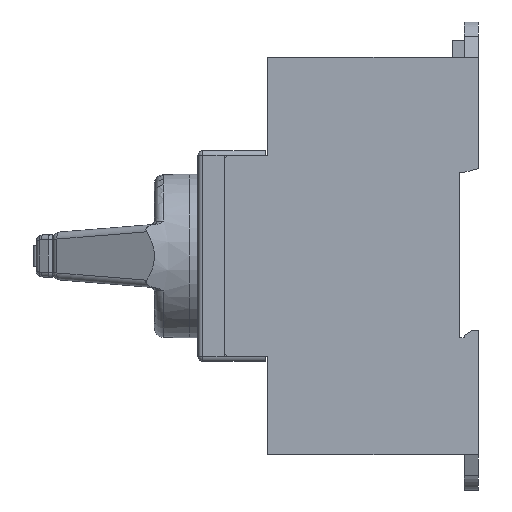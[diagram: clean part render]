
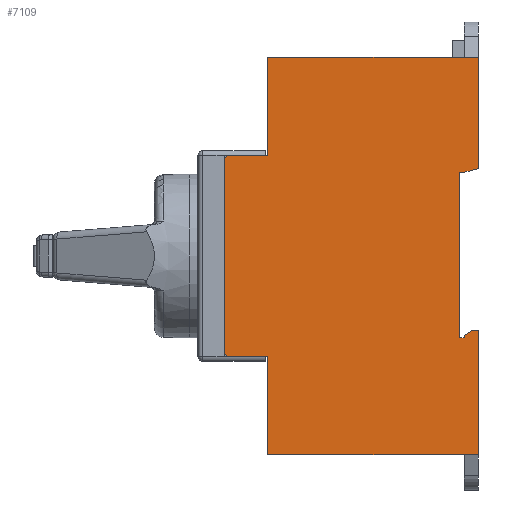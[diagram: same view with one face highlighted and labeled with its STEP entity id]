
A CAD part, left-side view. The second image highlights one B-rep face of the part: STEP entity #7109.
In plain terms, the highlighted planar face has unit normal (-1, 0, 0).
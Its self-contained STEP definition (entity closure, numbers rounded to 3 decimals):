
#271 = EDGE_CURVE ( 'NONE', #6432, #445, #11219, .T. ) ;
#331 = DIRECTION ( 'NONE',  ( 0., -1., 0. ) ) ;
#359 = CARTESIAN_POINT ( 'NONE',  ( -39., 54.2, -21.5 ) ) ;
#401 = CARTESIAN_POINT ( 'NONE',  ( -39., 45., -21.5 ) ) ;
#445 = VERTEX_POINT ( 'NONE', #4787 ) ;
#505 = VERTEX_POINT ( 'NONE', #4266 ) ;
#633 = CARTESIAN_POINT ( 'NONE',  ( -39., 1.5, -16. ) ) ;
#720 = LINE ( 'NONE', #8243, #1911 ) ;
#781 = EDGE_CURVE ( 'NONE', #3661, #3012, #9451, .T. ) ;
#891 = ORIENTED_EDGE ( 'NONE', *, *, #4813, .F. ) ;
#982 = ORIENTED_EDGE ( 'NONE', *, *, #11224, .T. ) ;
#1127 = ORIENTED_EDGE ( 'NONE', *, *, #2856, .T. ) ;
#1135 = ORIENTED_EDGE ( 'NONE', *, *, #271, .T. ) ;
#1411 = LINE ( 'NONE', #4727, #1437 ) ;
#1417 = ORIENTED_EDGE ( 'NONE', *, *, #11159, .T. ) ;
#1437 = VECTOR ( 'NONE', #4858, 1000. ) ;
#1460 = AXIS2_PLACEMENT_3D ( 'NONE', #7055, #7041, #7024 ) ;
#1651 = CARTESIAN_POINT ( 'NONE',  ( -39., 3., -17. ) ) ;
#1696 = LINE ( 'NONE', #9476, #1715 ) ;
#1714 = VERTEX_POINT ( 'NONE', #11080 ) ;
#1715 = VECTOR ( 'NONE', #9439, 1000. ) ;
#1879 = EDGE_CURVE ( 'NONE', #9569, #10365, #1696, .T. ) ;
#1911 = VECTOR ( 'NONE', #8288, 1000. ) ;
#2161 = VERTEX_POINT ( 'NONE', #7005 ) ;
#2172 = EDGE_LOOP ( 'NONE', ( #4340, #1135, #3771, #891, #4656, #10840, #7384, #1127, #9177, #2670, #1417, #982, #8546, #8493, #10551, #8284 ) ) ;
#2271 = DIRECTION ( 'NONE',  ( 0., 0., 1. ) ) ;
#2294 = EDGE_CURVE ( 'NONE', #3012, #6432, #2700, .T. ) ;
#2460 = LINE ( 'NONE', #7784, #5811 ) ;
#2504 = FACE_OUTER_BOUND ( 'NONE', #2172, .T. ) ;
#2617 = LINE ( 'NONE', #3783, #4447 ) ;
#2624 = DIRECTION ( 'NONE',  ( 0., 0., 1. ) ) ;
#2651 = CARTESIAN_POINT ( 'NONE',  ( -39., 4., 42.5 ) ) ;
#2670 = ORIENTED_EDGE ( 'NONE', *, *, #5961, .T. ) ;
#2698 = VECTOR ( 'NONE', #5645, 1000. ) ;
#2700 = LINE ( 'NONE', #5658, #2698 ) ;
#2856 = EDGE_CURVE ( 'NONE', #10749, #10365, #4652, .T. ) ;
#2995 = CARTESIAN_POINT ( 'NONE',  ( -39., 54.2, 21.5 ) ) ;
#3012 = VERTEX_POINT ( 'NONE', #8668 ) ;
#3133 = DIRECTION ( 'NONE',  ( 0., -1., 0. ) ) ;
#3176 = CARTESIAN_POINT ( 'NONE',  ( -39., 45., -42.5 ) ) ;
#3289 = VERTEX_POINT ( 'NONE', #1651 ) ;
#3661 = VERTEX_POINT ( 'NONE', #7458 ) ;
#3771 = ORIENTED_EDGE ( 'NONE', *, *, #11044, .T. ) ;
#3783 = CARTESIAN_POINT ( 'NONE',  ( -39., 54.2, 21.5 ) ) ;
#3803 = CARTESIAN_POINT ( 'NONE',  ( -39., 45., -42.5 ) ) ;
#3881 = EDGE_CURVE ( 'NONE', #7117, #505, #1411, .T. ) ;
#4266 = CARTESIAN_POINT ( 'NONE',  ( -39., 45., 42.5 ) ) ;
#4340 = ORIENTED_EDGE ( 'NONE', *, *, #2294, .T. ) ;
#4447 = VECTOR ( 'NONE', #3133, 1000. ) ;
#4469 = CARTESIAN_POINT ( 'NONE',  ( -39., 45., 42.5 ) ) ;
#4640 = VECTOR ( 'NONE', #331, 1000. ) ;
#4652 = LINE ( 'NONE', #359, #4640 ) ;
#4656 = ORIENTED_EDGE ( 'NONE', *, *, #3881, .F. ) ;
#4701 = CARTESIAN_POINT ( 'NONE',  ( -39., 0., -42.5 ) ) ;
#4727 = CARTESIAN_POINT ( 'NONE',  ( -39., 45., 42.5 ) ) ;
#4787 = CARTESIAN_POINT ( 'NONE',  ( -39., 0., 18.7 ) ) ;
#4813 = EDGE_CURVE ( 'NONE', #505, #7441, #6163, .T. ) ;
#4858 = DIRECTION ( 'NONE',  ( 0., 0., 1. ) ) ;
#4903 = VERTEX_POINT ( 'NONE', #633 ) ;
#5645 = DIRECTION ( 'NONE',  ( 0., -1., 0. ) ) ;
#5658 = CARTESIAN_POINT ( 'NONE',  ( -39., 45., 17.8 ) ) ;
#5751 = CARTESIAN_POINT ( 'NONE',  ( -39., 35.843, 8.925 ) ) ;
#5758 = DIRECTION ( 'NONE',  ( 0., 0., 1. ) ) ;
#5811 = VECTOR ( 'NONE', #7670, 1000. ) ;
#5846 = DIRECTION ( 'NONE',  ( 0., -0.965, 0.263 ) ) ;
#5961 = EDGE_CURVE ( 'NONE', #9569, #10841, #7096, .T. ) ;
#6163 = LINE ( 'NONE', #4469, #6202 ) ;
#6202 = VECTOR ( 'NONE', #6867, 1000. ) ;
#6432 = VERTEX_POINT ( 'NONE', #7363 ) ;
#6867 = DIRECTION ( 'NONE',  ( 0., -1., 0. ) ) ;
#6996 = CARTESIAN_POINT ( 'NONE',  ( -39., 54.2, -21.5 ) ) ;
#7005 = CARTESIAN_POINT ( 'NONE',  ( -39., 54.2, 21.5 ) ) ;
#7024 = DIRECTION ( 'NONE',  ( 0., 0., -1. ) ) ;
#7041 = DIRECTION ( 'NONE',  ( 1., 0., 0. ) ) ;
#7055 = CARTESIAN_POINT ( 'NONE',  ( -39., 45., 42.5 ) ) ;
#7093 = CARTESIAN_POINT ( 'NONE',  ( -39., 45., 21.5 ) ) ;
#7096 = LINE ( 'NONE', #3176, #11194 ) ;
#7109 = ADVANCED_FACE ( 'NONE', ( #2504 ), #7228, .F. ) ;
#7117 = VERTEX_POINT ( 'NONE', #7093 ) ;
#7228 = PLANE ( 'NONE',  #1460 ) ;
#7363 = CARTESIAN_POINT ( 'NONE',  ( -39., 3.3, 17.8 ) ) ;
#7384 = ORIENTED_EDGE ( 'NONE', *, *, #10899, .F. ) ;
#7441 = VERTEX_POINT ( 'NONE', #10598 ) ;
#7458 = CARTESIAN_POINT ( 'NONE',  ( -39., 4., -17.5 ) ) ;
#7665 = CARTESIAN_POINT ( 'NONE',  ( -39., 0., 42.5 ) ) ;
#7670 = DIRECTION ( 'NONE',  ( 0., 0.832, -0.555 ) ) ;
#7784 = CARTESIAN_POINT ( 'NONE',  ( -39., 4.615, -18.077 ) ) ;
#8164 = VECTOR ( 'NONE', #5846, 1000. ) ;
#8243 = CARTESIAN_POINT ( 'NONE',  ( -39., 3., 42.5 ) ) ;
#8284 = ORIENTED_EDGE ( 'NONE', *, *, #781, .T. ) ;
#8288 = DIRECTION ( 'NONE',  ( 0., 0., -1. ) ) ;
#8493 = ORIENTED_EDGE ( 'NONE', *, *, #9373, .T. ) ;
#8524 = LINE ( 'NONE', #2995, #8615 ) ;
#8546 = ORIENTED_EDGE ( 'NONE', *, *, #8610, .T. ) ;
#8610 = EDGE_CURVE ( 'NONE', #4903, #3289, #2460, .T. ) ;
#8615 = VECTOR ( 'NONE', #2271, 1000. ) ;
#8668 = CARTESIAN_POINT ( 'NONE',  ( -39., 4., 17.8 ) ) ;
#8704 = CARTESIAN_POINT ( 'NONE',  ( -39., 0., -16. ) ) ;
#8827 = DIRECTION ( 'NONE',  ( 0., -1., 0. ) ) ;
#8998 = LINE ( 'NONE', #7665, #9038 ) ;
#9038 = VECTOR ( 'NONE', #5758, 1000. ) ;
#9056 = VERTEX_POINT ( 'NONE', #8704 ) ;
#9177 = ORIENTED_EDGE ( 'NONE', *, *, #1879, .F. ) ;
#9281 = LINE ( 'NONE', #11229, #9381 ) ;
#9359 = LINE ( 'NONE', #10819, #9369 ) ;
#9369 = VECTOR ( 'NONE', #10755, 1000. ) ;
#9373 = EDGE_CURVE ( 'NONE', #3289, #1714, #720, .T. ) ;
#9381 = VECTOR ( 'NONE', #10683, 1000. ) ;
#9439 = DIRECTION ( 'NONE',  ( 0., 0., 1. ) ) ;
#9451 = LINE ( 'NONE', #2651, #10945 ) ;
#9476 = CARTESIAN_POINT ( 'NONE',  ( -39., 45., 42.5 ) ) ;
#9485 = CARTESIAN_POINT ( 'NONE',  ( -39., 45., -16. ) ) ;
#9519 = DIRECTION ( 'NONE',  ( 0., 1., 0. ) ) ;
#9549 = VECTOR ( 'NONE', #9519, 1000. ) ;
#9569 = VERTEX_POINT ( 'NONE', #3803 ) ;
#9629 = LINE ( 'NONE', #9485, #9549 ) ;
#10251 = EDGE_CURVE ( 'NONE', #2161, #7117, #2617, .T. ) ;
#10365 = VERTEX_POINT ( 'NONE', #401 ) ;
#10551 = ORIENTED_EDGE ( 'NONE', *, *, #11160, .T. ) ;
#10598 = CARTESIAN_POINT ( 'NONE',  ( -39., 0., 42.5 ) ) ;
#10683 = DIRECTION ( 'NONE',  ( 0., 1., 0. ) ) ;
#10749 = VERTEX_POINT ( 'NONE', #6996 ) ;
#10755 = DIRECTION ( 'NONE',  ( 0., 0., 1. ) ) ;
#10819 = CARTESIAN_POINT ( 'NONE',  ( -39., 0., 42.5 ) ) ;
#10840 = ORIENTED_EDGE ( 'NONE', *, *, #10251, .F. ) ;
#10841 = VERTEX_POINT ( 'NONE', #4701 ) ;
#10899 = EDGE_CURVE ( 'NONE', #10749, #2161, #8524, .T. ) ;
#10945 = VECTOR ( 'NONE', #2624, 1000. ) ;
#11044 = EDGE_CURVE ( 'NONE', #445, #7441, #8998, .T. ) ;
#11080 = CARTESIAN_POINT ( 'NONE',  ( -39., 3., -17.5 ) ) ;
#11159 = EDGE_CURVE ( 'NONE', #10841, #9056, #9359, .T. ) ;
#11160 = EDGE_CURVE ( 'NONE', #1714, #3661, #9281, .T. ) ;
#11194 = VECTOR ( 'NONE', #8827, 1000. ) ;
#11219 = LINE ( 'NONE', #5751, #8164 ) ;
#11224 = EDGE_CURVE ( 'NONE', #9056, #4903, #9629, .T. ) ;
#11229 = CARTESIAN_POINT ( 'NONE',  ( -39., 45., -17.5 ) ) ;
